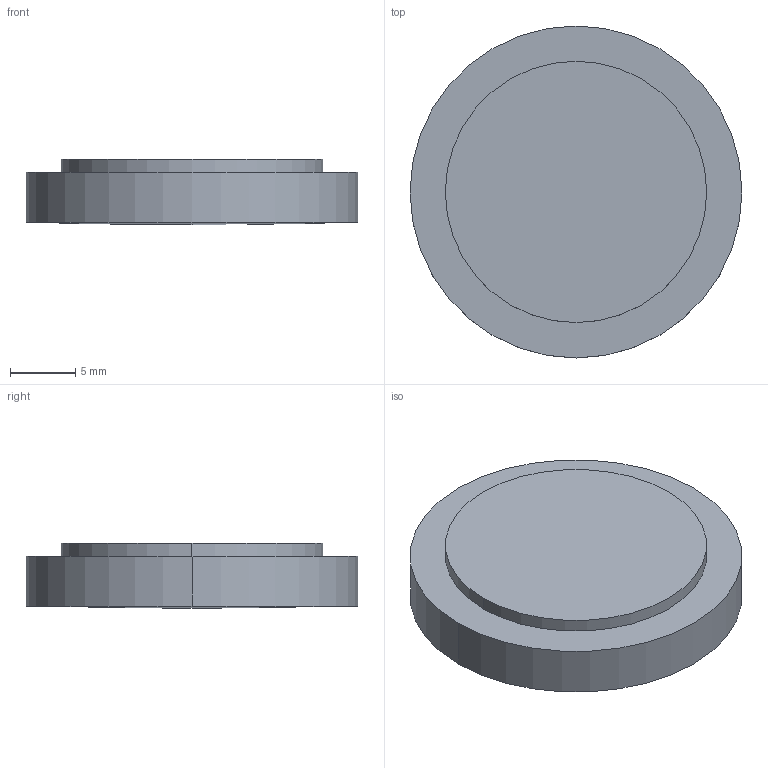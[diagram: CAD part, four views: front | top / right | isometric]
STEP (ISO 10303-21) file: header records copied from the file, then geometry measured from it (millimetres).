
FILE_DESCRIPTION(('STEP AP214'),'1');
FILE_NAME('LLR-25-1M.STEP','2020-03-09T17:41:54',(' '),(' '),'Spatial InterOp 3D',' ',' ');
FILE_SCHEMA(('AUTOMOTIVE_DESIGN { 1 0 10303 214 1 1 1 1 }'));
Length unit declared in the file: millimetre
Products named in the file (1): 1
Bounding box: 25.4 x 25.4 x 5 mm (x, y, z)
Volume: 2292.8 mm3; surface area: 2008.7 mm2
Topology: 2 solids, 2 shells, 9 faces, 16 edges, 9 vertices
Faces by surface type: cylinder 4, plane 3, sphere 2
Entity records: 229 total; most frequent: DIRECTION 46, CARTESIAN_POINT 34, ORIENTED_EDGE 28, AXIS2_PLACEMENT_3D 21, EDGE_CURVE 14, CIRCLE 10, ADVANCED_FACE 9, FACE_OUTER_BOUND 9
